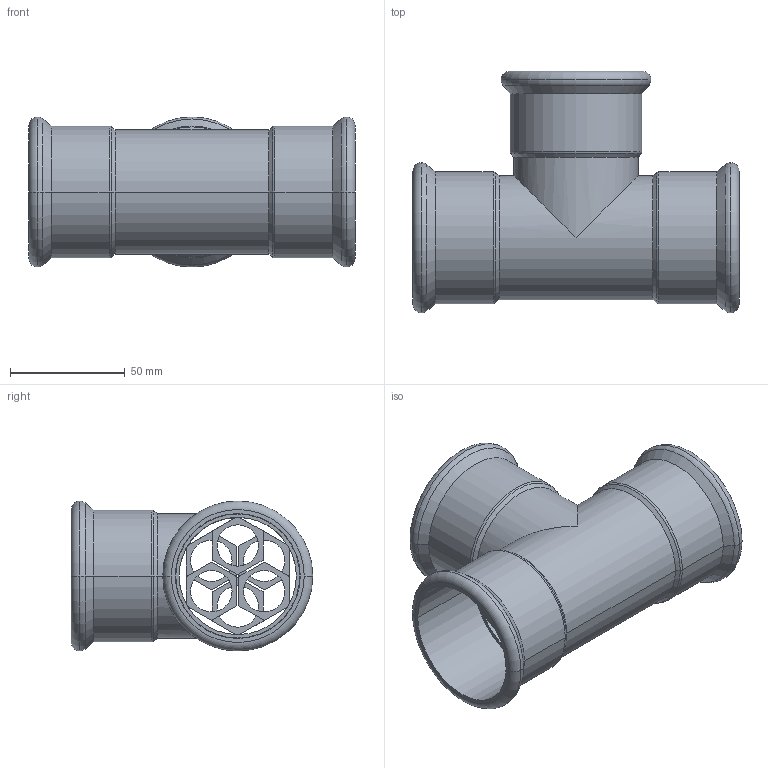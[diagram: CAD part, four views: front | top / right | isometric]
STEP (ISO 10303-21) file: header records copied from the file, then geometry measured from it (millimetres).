
FILE_DESCRIPTION(('OneSpaceDesigner STEP Export'),'2;1');
FILE_NAME('R2714 54x54x54.stp','2010-06-10T 8:43:38',(''),(''),'OneSpace Designer STEP processor for AP214 (Solid Model)','OneSpace Modeling 15.00A 14-Mar-2007 (C) CoCreate Software GmbH','');
FILE_SCHEMA(('AUTOMOTIVE_DESIGN { 1 0 10303 214 1 1 1 1 }'));
Length unit declared in the file: millimetre
Products named in the file (2): R2714_54x54x54
Assembly tree (1 placements, depth 2):
  R2714_54x54x54
    R2714_54x54x54
Bounding box: 142 x 105.15 x 65.3 mm (x, y, z)
Volume: 65707.1 mm3; surface area: 72518.6 mm2
Topology: 1 solids, 1 shells, 173 faces, 437 edges, 280 vertices
Faces by surface type: plane 90, cylinder 53, torus 18, cone 12
Entity records: 4607 total; most frequent: ORIENTED_EDGE 874, CARTESIAN_POINT 753, DIRECTION 683, EDGE_CURVE 437, VERTEX_POINT 280, VECTOR 263, LINE 263, AXIS2_PLACEMENT_3D 210
